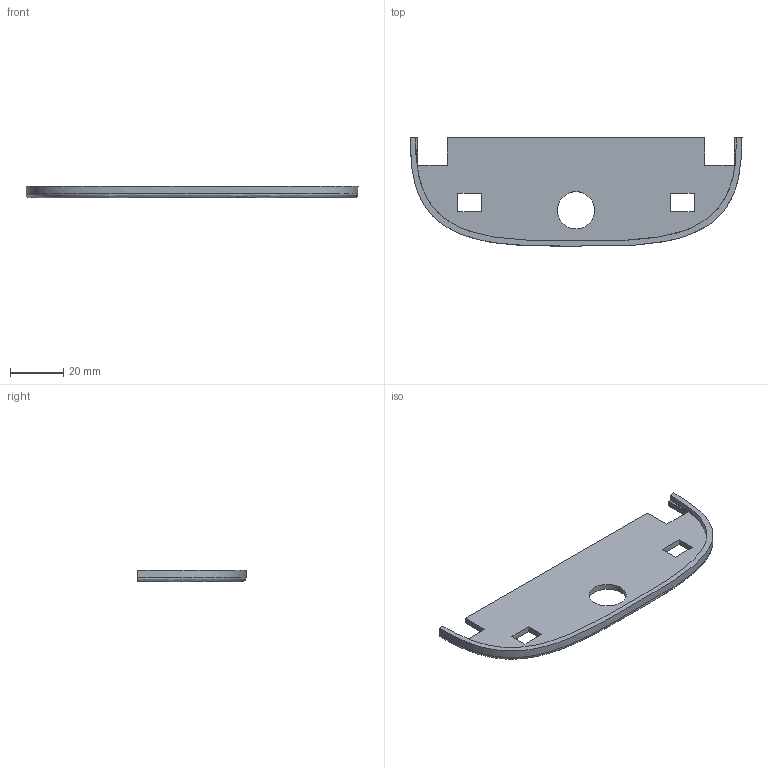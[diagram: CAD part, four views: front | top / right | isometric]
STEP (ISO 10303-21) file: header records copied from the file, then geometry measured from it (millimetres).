
FILE_DESCRIPTION(('Open CASCADE Model'),'2;1');
FILE_NAME('Open CASCADE Shape Model','2026-11-11T21:53:51',('Author'),( 'Open CASCADE'),'Open CASCADE STEP processor 8.0','build123d', 'Unknown');
FILE_SCHEMA(('AUTOMOTIVE_DESIGN { 1 0 10303 214 1 1 1 1 }'));
Length unit declared in the file: millimetre
Products named in the file (1): SOLID
Bounding box: 124.95 x 40.77 x 4.5 mm (x, y, z)
Volume: 9607 mm3; surface area: 9726.6 mm2
Topology: 1 solids, 1 shells, 24 faces, 66 edges, 44 vertices
Faces by surface type: plane 20, bspline 3, cylinder 1
Full cylindrical faces by diameter (mm): 14 x1
Entity records: 7480 total; most frequent: CARTESIAN_POINT 6345, DIRECTION 135, ORIENTED_EDGE 132, PCURVE 132, DEFINITIONAL_REPRESENTATION 132, B_SPLINE_CURVE_WITH_KNOTS 107, LINE 85, VECTOR 85
